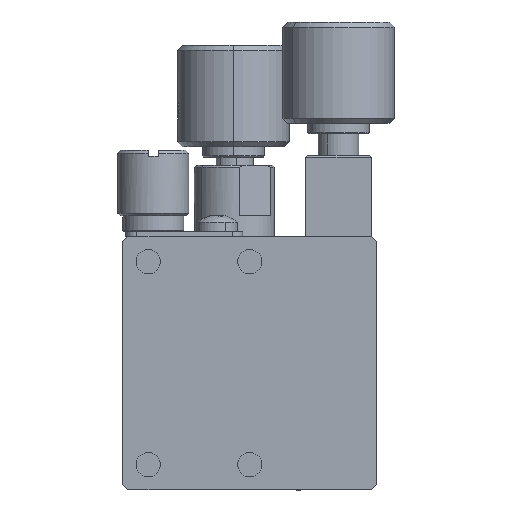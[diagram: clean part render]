
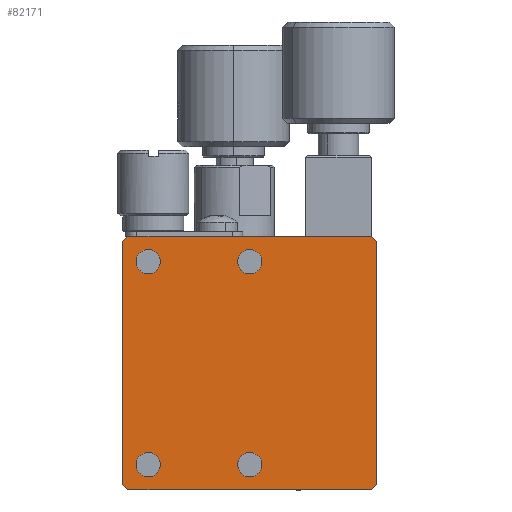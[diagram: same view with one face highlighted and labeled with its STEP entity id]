
A CAD part, front view. The second image highlights one B-rep face of the part: STEP entity #82171.
In plain terms, the highlighted planar face has unit normal (0, -1, 0).
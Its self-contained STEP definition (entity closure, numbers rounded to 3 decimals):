
#1435 = CIRCLE ( 'NONE', #59191, 1.2 ) ;
#1871 = CARTESIAN_POINT ( 'NONE',  ( -10.683, 13.392, 69.883 ) ) ;
#2393 = VECTOR ( 'NONE', #24716, 1000. ) ;
#4051 = DIRECTION ( 'NONE',  ( 0.707, 0., 0.707 ) ) ;
#4063 = DIRECTION ( 'NONE',  ( -1., 0., 0. ) ) ;
#5749 = EDGE_LOOP ( 'NONE', ( #50117, #34689 ) ) ;
#6942 = DIRECTION ( 'NONE',  ( -1., 0., 0. ) ) ;
#7762 = FACE_BOUND ( 'NONE', #54902, .T. ) ;
#7892 = VECTOR ( 'NONE', #18595, 1000. ) ;
#8394 = ORIENTED_EDGE ( 'NONE', *, *, #34249, .T. ) ;
#9782 = ORIENTED_EDGE ( 'NONE', *, *, #49290, .T. ) ;
#11665 = DIRECTION ( 'NONE',  ( 0., -1., 0. ) ) ;
#15064 = EDGE_CURVE ( 'NONE', #47699, #50421, #81073, .T. ) ;
#15530 = AXIS2_PLACEMENT_3D ( 'NONE', #81295, #11665, #105617 ) ;
#16784 = VERTEX_POINT ( 'NONE', #61348 ) ;
#16811 = FACE_OUTER_BOUND ( 'NONE', #60999, .T. ) ;
#17812 = DIRECTION ( 'NONE',  ( 0., 0., -1. ) ) ;
#18595 = DIRECTION ( 'NONE',  ( -1., 0., 0. ) ) ;
#19295 = DIRECTION ( 'NONE',  ( 0., 1., 0. ) ) ;
#19584 = CARTESIAN_POINT ( 'NONE',  ( -13.883, 13.392, 72.383 ) ) ;
#20395 = CARTESIAN_POINT ( 'NONE',  ( -11.883, 13.392, 49.883 ) ) ;
#20901 = DIRECTION ( 'NONE',  ( -1., 0., 0. ) ) ;
#23914 = CARTESIAN_POINT ( 'NONE',  ( -11.883, 13.392, 69.883 ) ) ;
#24716 = DIRECTION ( 'NONE',  ( -1., 0., 0. ) ) ;
#24818 = CARTESIAN_POINT ( 'NONE',  ( 22.867, 13.392, 60.133 ) ) ;
#24921 = CARTESIAN_POINT ( 'NONE',  ( 10.617, 13.392, 72.383 ) ) ;
#24939 = CIRCLE ( 'NONE', #32012, 1.2 ) ;
#25531 = DIRECTION ( 'NONE',  ( 0., 1., 0. ) ) ;
#26517 = VERTEX_POINT ( 'NONE', #102705 ) ;
#27005 = DIRECTION ( 'NONE',  ( 0., 1., 0. ) ) ;
#27101 = LINE ( 'NONE', #53683, #7892 ) ;
#27369 = CARTESIAN_POINT ( 'NONE',  ( -14.133, 13.392, 47.633 ) ) ;
#27840 = DIRECTION ( 'NONE',  ( -1., 0., 0. ) ) ;
#27865 = ORIENTED_EDGE ( 'NONE', *, *, #82667, .T. ) ;
#27888 = CARTESIAN_POINT ( 'NONE',  ( -1.633, 13.392, 84.633 ) ) ;
#28205 = CARTESIAN_POINT ( 'NONE',  ( 10.117, 13.392, 72.383 ) ) ;
#28911 = CARTESIAN_POINT ( 'NONE',  ( 10.117, 13.392, 47.383 ) ) ;
#28987 = VERTEX_POINT ( 'NONE', #47447 ) ;
#31371 = AXIS2_PLACEMENT_3D ( 'NONE', #84773, #74608, #109114 ) ;
#31921 = AXIS2_PLACEMENT_3D ( 'NONE', #82574, #46383, #20901 ) ;
#32012 = AXIS2_PLACEMENT_3D ( 'NONE', #109873, #100272, #4063 ) ;
#32213 = ORIENTED_EDGE ( 'NONE', *, *, #32616, .F. ) ;
#32616 = EDGE_CURVE ( 'NONE', #41452, #93400, #93406, .T. ) ;
#33213 = CARTESIAN_POINT ( 'NONE',  ( 10.617, 13.392, 47.383 ) ) ;
#33509 = CIRCLE ( 'NONE', #38920, 1.2 ) ;
#33595 = AXIS2_PLACEMENT_3D ( 'NONE', #105067, #27005, #54684 ) ;
#33903 = ORIENTED_EDGE ( 'NONE', *, *, #53598, .T. ) ;
#34249 = EDGE_CURVE ( 'NONE', #37475, #75131, #65683, .T. ) ;
#34689 = ORIENTED_EDGE ( 'NONE', *, *, #65048, .T. ) ;
#34834 = ORIENTED_EDGE ( 'NONE', *, *, #67701, .T. ) ;
#35744 = DIRECTION ( 'NONE',  ( -1., 0., 0. ) ) ;
#37475 = VERTEX_POINT ( 'NONE', #55115 ) ;
#37761 = EDGE_CURVE ( 'NONE', #16784, #62918, #24939, .T. ) ;
#38920 = AXIS2_PLACEMENT_3D ( 'NONE', #23914, #92965, #6942 ) ;
#39536 = CARTESIAN_POINT ( 'NONE',  ( -3.083, 13.392, 49.883 ) ) ;
#41452 = VERTEX_POINT ( 'NONE', #70357 ) ;
#42088 = AXIS2_PLACEMENT_3D ( 'NONE', #44199, #25531, #78733 ) ;
#42305 = FACE_BOUND ( 'NONE', #75948, .T. ) ;
#43584 = EDGE_CURVE ( 'NONE', #28987, #55132, #90874, .T. ) ;
#44199 = CARTESIAN_POINT ( 'NONE',  ( -1.883, 13.392, 49.883 ) ) ;
#44250 = EDGE_CURVE ( 'NONE', #26517, #76311, #61326, .T. ) ;
#44290 = VERTEX_POINT ( 'NONE', #52832 ) ;
#45349 = LINE ( 'NONE', #53834, #91052 ) ;
#45510 = CARTESIAN_POINT ( 'NONE',  ( -14.383, 13.392, 72.383 ) ) ;
#46125 = VECTOR ( 'NONE', #17812, 1000. ) ;
#46132 = EDGE_CURVE ( 'NONE', #99113, #47699, #27101, .T. ) ;
#46383 = DIRECTION ( 'NONE',  ( 0., 1., 0. ) ) ;
#47447 = CARTESIAN_POINT ( 'NONE',  ( -0.683, 13.392, 49.883 ) ) ;
#47699 = VERTEX_POINT ( 'NONE', #19584 ) ;
#48052 = CIRCLE ( 'NONE', #33595, 1.2 ) ;
#48180 = ORIENTED_EDGE ( 'NONE', *, *, #83211, .T. ) ;
#49290 = EDGE_CURVE ( 'NONE', #64891, #93400, #81609, .T. ) ;
#50004 = CIRCLE ( 'NONE', #31921, 1.2 ) ;
#50117 = ORIENTED_EDGE ( 'NONE', *, *, #59555, .T. ) ;
#50247 = FACE_BOUND ( 'NONE', #5749, .T. ) ;
#50421 = VERTEX_POINT ( 'NONE', #89900 ) ;
#51344 = PLANE ( 'NONE',  #15530 ) ;
#52832 = CARTESIAN_POINT ( 'NONE',  ( -10.683, 13.392, 49.883 ) ) ;
#52876 = LINE ( 'NONE', #45510, #46125 ) ;
#53277 = DIRECTION ( 'NONE',  ( -0.707, 0., 0.707 ) ) ;
#53316 = DIRECTION ( 'NONE',  ( 0., 1., 0. ) ) ;
#53598 = EDGE_CURVE ( 'NONE', #50421, #26517, #52876, .T. ) ;
#53683 = CARTESIAN_POINT ( 'NONE',  ( 10.617, 13.392, 72.383 ) ) ;
#53834 = CARTESIAN_POINT ( 'NONE',  ( 10.367, 13.392, 72.133 ) ) ;
#54684 = DIRECTION ( 'NONE',  ( -1., 0., 0. ) ) ;
#54902 = EDGE_LOOP ( 'NONE', ( #48180, #8394 ) ) ;
#55115 = CARTESIAN_POINT ( 'NONE',  ( -0.683, 13.392, 69.883 ) ) ;
#55132 = VERTEX_POINT ( 'NONE', #39536 ) ;
#55172 = ORIENTED_EDGE ( 'NONE', *, *, #37761, .T. ) ;
#58652 = CARTESIAN_POINT ( 'NONE',  ( 10.617, 13.392, 47.883 ) ) ;
#58721 = FACE_BOUND ( 'NONE', #92578, .T. ) ;
#59191 = AXIS2_PLACEMENT_3D ( 'NONE', #20395, #19295, #35744 ) ;
#59435 = DIRECTION ( 'NONE',  ( 0., 0., -1. ) ) ;
#59555 = EDGE_CURVE ( 'NONE', #81015, #44290, #50004, .T. ) ;
#60999 = EDGE_LOOP ( 'NONE', ( #72476, #9782, #32213, #34834, #74157, #80469, #33903, #74075 ) ) ;
#61326 = LINE ( 'NONE', #27369, #98144 ) ;
#61348 = CARTESIAN_POINT ( 'NONE',  ( -13.083, 13.392, 69.883 ) ) ;
#62918 = VERTEX_POINT ( 'NONE', #1871 ) ;
#63067 = VECTOR ( 'NONE', #59435, 1000. ) ;
#64891 = VERTEX_POINT ( 'NONE', #28911 ) ;
#65048 = EDGE_CURVE ( 'NONE', #44290, #81015, #1435, .T. ) ;
#65683 = CIRCLE ( 'NONE', #31371, 1.2 ) ;
#65811 = VECTOR ( 'NONE', #4051, 1000. ) ;
#67701 = EDGE_CURVE ( 'NONE', #41452, #99113, #45349, .T. ) ;
#70357 = CARTESIAN_POINT ( 'NONE',  ( 10.617, 13.392, 71.883 ) ) ;
#72476 = ORIENTED_EDGE ( 'NONE', *, *, #99957, .F. ) ;
#73498 = CARTESIAN_POINT ( 'NONE',  ( -13.083, 13.392, 49.883 ) ) ;
#74075 = ORIENTED_EDGE ( 'NONE', *, *, #44250, .T. ) ;
#74157 = ORIENTED_EDGE ( 'NONE', *, *, #46132, .T. ) ;
#74608 = DIRECTION ( 'NONE',  ( 0., 1., 0. ) ) ;
#75131 = VERTEX_POINT ( 'NONE', #94954 ) ;
#75948 = EDGE_LOOP ( 'NONE', ( #55172, #108691 ) ) ;
#76311 = VERTEX_POINT ( 'NONE', #111788 ) ;
#77325 = ORIENTED_EDGE ( 'NONE', *, *, #43584, .T. ) ;
#78242 = CARTESIAN_POINT ( 'NONE',  ( -1.883, 13.392, 69.883 ) ) ;
#78733 = DIRECTION ( 'NONE',  ( -1., 0., 0. ) ) ;
#78863 = DIRECTION ( 'NONE',  ( -0.707, 0., -0.707 ) ) ;
#79993 = EDGE_CURVE ( 'NONE', #62918, #16784, #33509, .T. ) ;
#80469 = ORIENTED_EDGE ( 'NONE', *, *, #15064, .T. ) ;
#81015 = VERTEX_POINT ( 'NONE', #73498 ) ;
#81073 = LINE ( 'NONE', #27888, #110785 ) ;
#81295 = CARTESIAN_POINT ( 'NONE',  ( 10.617, 13.392, 72.383 ) ) ;
#81609 = LINE ( 'NONE', #24818, #65811 ) ;
#82171 = ADVANCED_FACE ( 'NONE', ( #50247, #58721, #7762, #42305, #16811 ), #51344, .T. ) ;
#82574 = CARTESIAN_POINT ( 'NONE',  ( -11.883, 13.392, 49.883 ) ) ;
#82667 = EDGE_CURVE ( 'NONE', #55132, #28987, #48052, .T. ) ;
#83211 = EDGE_CURVE ( 'NONE', #75131, #37475, #107719, .T. ) ;
#84773 = CARTESIAN_POINT ( 'NONE',  ( -1.883, 13.392, 69.883 ) ) ;
#85254 = LINE ( 'NONE', #33213, #2393 ) ;
#87788 = AXIS2_PLACEMENT_3D ( 'NONE', #78242, #53316, #27840 ) ;
#89900 = CARTESIAN_POINT ( 'NONE',  ( -14.383, 13.392, 71.883 ) ) ;
#90874 = CIRCLE ( 'NONE', #42088, 1.2 ) ;
#91052 = VECTOR ( 'NONE', #53277, 1000. ) ;
#92578 = EDGE_LOOP ( 'NONE', ( #27865, #77325 ) ) ;
#92965 = DIRECTION ( 'NONE',  ( 0., 1., 0. ) ) ;
#93400 = VERTEX_POINT ( 'NONE', #58652 ) ;
#93406 = LINE ( 'NONE', #24921, #63067 ) ;
#94954 = CARTESIAN_POINT ( 'NONE',  ( -3.083, 13.392, 69.883 ) ) ;
#95845 = DIRECTION ( 'NONE',  ( 0.707, 0., -0.707 ) ) ;
#98144 = VECTOR ( 'NONE', #95845, 1000. ) ;
#99113 = VERTEX_POINT ( 'NONE', #28205 ) ;
#99957 = EDGE_CURVE ( 'NONE', #64891, #76311, #85254, .T. ) ;
#100272 = DIRECTION ( 'NONE',  ( 0., 1., 0. ) ) ;
#102705 = CARTESIAN_POINT ( 'NONE',  ( -14.383, 13.392, 47.883 ) ) ;
#105067 = CARTESIAN_POINT ( 'NONE',  ( -1.883, 13.392, 49.883 ) ) ;
#105617 = DIRECTION ( 'NONE',  ( 1., 0., 0. ) ) ;
#107719 = CIRCLE ( 'NONE', #87788, 1.2 ) ;
#108691 = ORIENTED_EDGE ( 'NONE', *, *, #79993, .T. ) ;
#109114 = DIRECTION ( 'NONE',  ( -1., 0., 0. ) ) ;
#109873 = CARTESIAN_POINT ( 'NONE',  ( -11.883, 13.392, 69.883 ) ) ;
#110785 = VECTOR ( 'NONE', #78863, 1000. ) ;
#111788 = CARTESIAN_POINT ( 'NONE',  ( -13.883, 13.392, 47.383 ) ) ;
